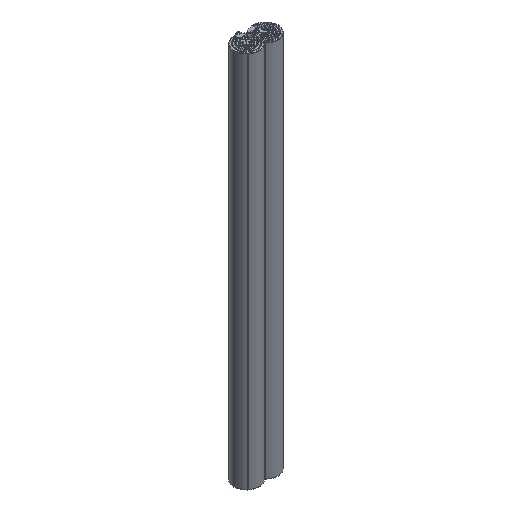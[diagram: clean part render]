
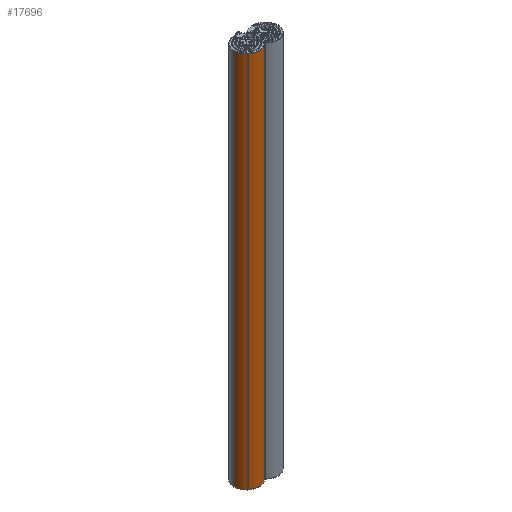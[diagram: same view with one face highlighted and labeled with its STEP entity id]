
A CAD part, isometric view. The second image highlights one B-rep face of the part: STEP entity #17696.
In plain terms, the highlighted cylindrical face has radius 60 mm (diameter 120 mm), a partial arc.
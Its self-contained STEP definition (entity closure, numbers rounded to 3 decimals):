
#338 = LINE ( 'NONE', #5947, #837 ) ;
#398 = EDGE_CURVE ( 'NONE', #3789, #15094, #17512, .T. ) ;
#556 = VERTEX_POINT ( 'NONE', #4735 ) ;
#837 = VECTOR ( 'NONE', #17330, 1000. ) ;
#3789 = VERTEX_POINT ( 'NONE', #4278 ) ;
#4151 = DIRECTION ( 'NONE',  ( 0., 0., 1. ) ) ;
#4278 = CARTESIAN_POINT ( 'NONE',  ( -105.04, -24.335, 1800. ) ) ;
#4470 = ORIENTED_EDGE ( 'NONE', *, *, #11160, .T. ) ;
#4629 = EDGE_LOOP ( 'NONE', ( #4734, #4470, #9999, #6728 ) ) ;
#4734 = ORIENTED_EDGE ( 'NONE', *, *, #398, .F. ) ;
#4735 = CARTESIAN_POINT ( 'NONE',  ( -3.501, -67.631, 0. ) ) ;
#4802 = CYLINDRICAL_SURFACE ( 'NONE', #11394, 60. ) ;
#5379 = CARTESIAN_POINT ( 'NONE',  ( -3.501, -67.631, 1800. ) ) ;
#5473 = VERTEX_POINT ( 'NONE', #11187 ) ;
#5573 = DIRECTION ( 'NONE',  ( 0., 0., -1. ) ) ;
#5947 = CARTESIAN_POINT ( 'NONE',  ( -3.501, -67.631, 1800. ) ) ;
#6441 = CIRCLE ( 'NONE', #18157, 60. ) ;
#6451 = DIRECTION ( 'NONE',  ( -1., 0., 0. ) ) ;
#6680 = VECTOR ( 'NONE', #5573, 1000. ) ;
#6728 = ORIENTED_EDGE ( 'NONE', *, *, #17867, .F. ) ;
#8139 = LINE ( 'NONE', #16486, #6680 ) ;
#8837 = DIRECTION ( 'NONE',  ( 0., 0., 1. ) ) ;
#9757 = CARTESIAN_POINT ( 'NONE',  ( -45.04, -24.335, 0. ) ) ;
#9999 = ORIENTED_EDGE ( 'NONE', *, *, #13626, .T. ) ;
#10091 = DIRECTION ( 'NONE',  ( 1., 0., 0. ) ) ;
#10395 = DIRECTION ( 'NONE',  ( 0., 0., -1. ) ) ;
#11160 = EDGE_CURVE ( 'NONE', #3789, #5473, #8139, .T. ) ;
#11187 = CARTESIAN_POINT ( 'NONE',  ( -105.04, -24.335, 0. ) ) ;
#11394 = AXIS2_PLACEMENT_3D ( 'NONE', #14612, #10395, #6451 ) ;
#12506 = DIRECTION ( 'NONE',  ( 1., 0., 0. ) ) ;
#12816 = AXIS2_PLACEMENT_3D ( 'NONE', #17171, #8837, #10091 ) ;
#13626 = EDGE_CURVE ( 'NONE', #5473, #556, #6441, .T. ) ;
#14612 = CARTESIAN_POINT ( 'NONE',  ( -45.04, -24.335, 1800. ) ) ;
#15094 = VERTEX_POINT ( 'NONE', #5379 ) ;
#16486 = CARTESIAN_POINT ( 'NONE',  ( -105.04, -24.335, 1800. ) ) ;
#17171 = CARTESIAN_POINT ( 'NONE',  ( -45.04, -24.335, 1800. ) ) ;
#17330 = DIRECTION ( 'NONE',  ( 0., 0., -1. ) ) ;
#17369 = FACE_OUTER_BOUND ( 'NONE', #4629, .T. ) ;
#17512 = CIRCLE ( 'NONE', #12816, 60. ) ;
#17696 = ADVANCED_FACE ( 'NONE', ( #17369 ), #4802, .T. ) ;
#17867 = EDGE_CURVE ( 'NONE', #15094, #556, #338, .T. ) ;
#18157 = AXIS2_PLACEMENT_3D ( 'NONE', #9757, #4151, #12506 ) ;
